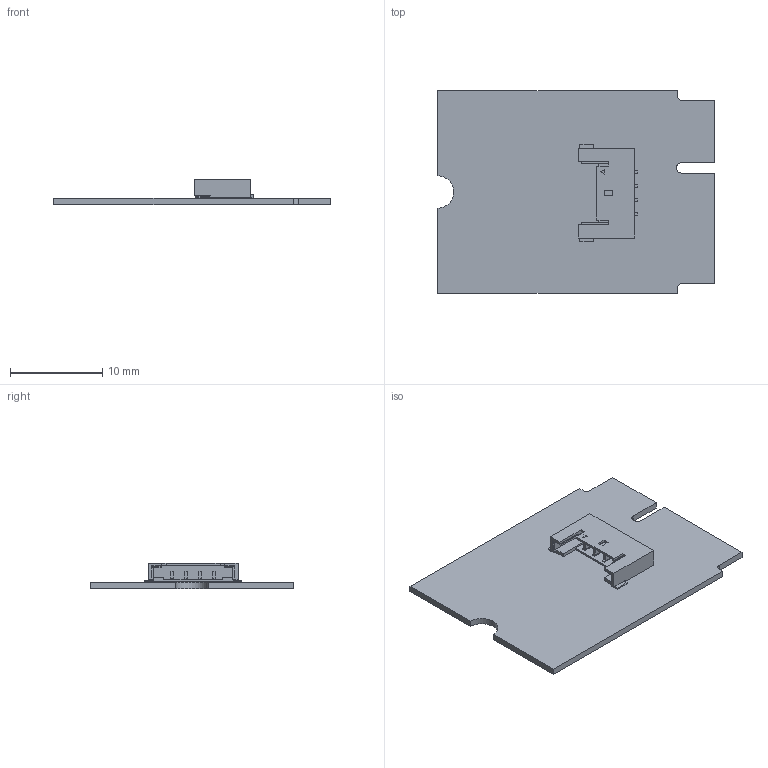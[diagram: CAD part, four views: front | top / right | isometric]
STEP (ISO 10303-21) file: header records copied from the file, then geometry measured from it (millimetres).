
FILE_DESCRIPTION(('KiCad electronic assembly'),'2;1');
FILE_NAME('NX-J401-usb-m2-key-e-V1.step','2026-05-25T23:09:16',('Pcbnew' ),('Kicad'),'Open CASCADE STEP processor 7.9', 'KiCad to STEP converter','Unknown');
FILE_SCHEMA(('AUTOMOTIVE_DESIGN { 1 0 10303 214 1 1 1 1 }'));
Length unit declared in the file: millimetre
Products named in the file (4): NX-J401-usb-m2-key-e-V1 1; Molex-pico-lock-5040500491; 5040500491wbm000_01; NX-J401-usb-m2-key-e-V1_PCB
Assembly tree (3 placements, depth 3):
  NX-J401-usb-m2-key-e-V1 1
    Molex-pico-lock-5040500491
      5040500491wbm000_01
    NX-J401-usb-m2-key-e-V1_PCB
Bounding box: 30 x 22 x 2.79 mm (x, y, z)
Volume: 513.6 mm3; surface area: 1629 mm2
Topology: 2 solids, 2 shells, 182 faces, 511 edges, 336 vertices
Faces by surface type: plane 162, cylinder 20
Entity records: 5847 total; most frequent: CARTESIAN_POINT 1033, ORIENTED_EDGE 1022, DIRECTION 923, EDGE_CURVE 511, LINE 471, VECTOR 471, VERTEX_POINT 336, AXIS2_PLACEMENT_3D 226
